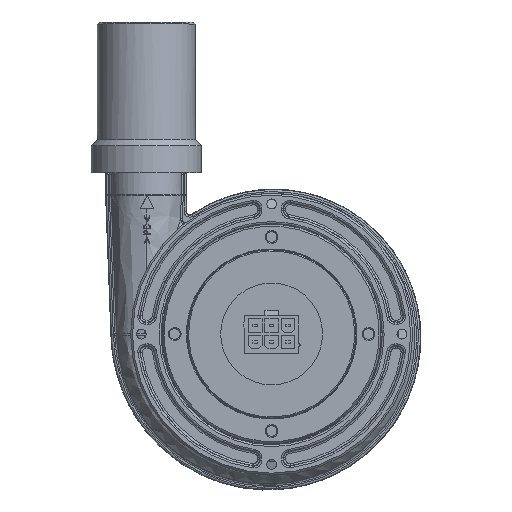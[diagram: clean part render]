
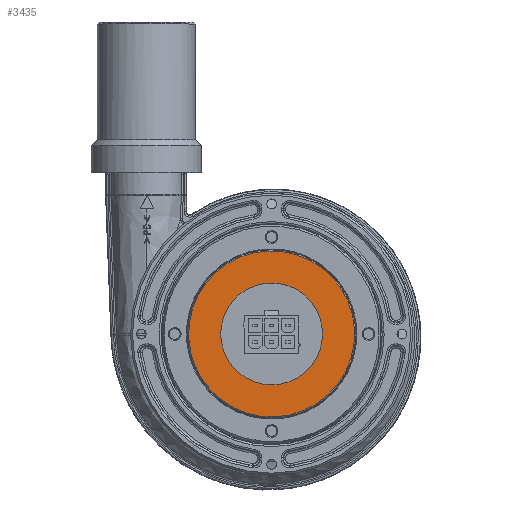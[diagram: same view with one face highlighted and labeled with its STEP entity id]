
A CAD part, top view. The second image highlights one B-rep face of the part: STEP entity #3435.
In plain terms, the highlighted planar face has unit normal (0, 0, 1).
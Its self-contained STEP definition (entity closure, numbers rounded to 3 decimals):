
#119=FACE_BOUND('',#5399,.T.);
#120=FACE_BOUND('',#5400,.T.);
#897=PLANE('',#16252);
#3435=ADVANCED_FACE('',(#119,#120),#897,.F.);
#5399=EDGE_LOOP('',(#9896));
#5400=EDGE_LOOP('',(#9897));
#5953=CIRCLE('',#16245,13.);
#5956=CIRCLE('',#16250,21.2);
#9896=ORIENTED_EDGE('',*,*,#13986,.T.);
#9897=ORIENTED_EDGE('',*,*,#13983,.F.);
#11842=VERTEX_POINT('',#34597);
#11845=VERTEX_POINT('',#34605);
#13983=EDGE_CURVE('',#11842,#11842,#5953,.T.);
#13986=EDGE_CURVE('',#11845,#11845,#5956,.T.);
#16245=AXIS2_PLACEMENT_3D('',#34596,#18872,#18873);
#16250=AXIS2_PLACEMENT_3D('',#34604,#18882,#18883);
#16252=AXIS2_PLACEMENT_3D('',#34607,#18886,#18887);
#18872=DIRECTION('',(0.,0.,1.));
#18873=DIRECTION('',(0.,-1.,0.));
#18882=DIRECTION('',(0.,0.,1.));
#18883=DIRECTION('',(0.3,0.954,0.));
#18886=DIRECTION('',(0.,0.,-1.));
#18887=DIRECTION('',(0.3,0.954,0.));
#34596=CARTESIAN_POINT('',(0.,0.,46.75));
#34597=CARTESIAN_POINT('',(0.,-13.,46.75));
#34604=CARTESIAN_POINT('',(0.,0.,
46.75));
#34605=CARTESIAN_POINT('',(6.367,20.221,46.75));
#34607=CARTESIAN_POINT('',(-6.457,-20.507,46.75));
